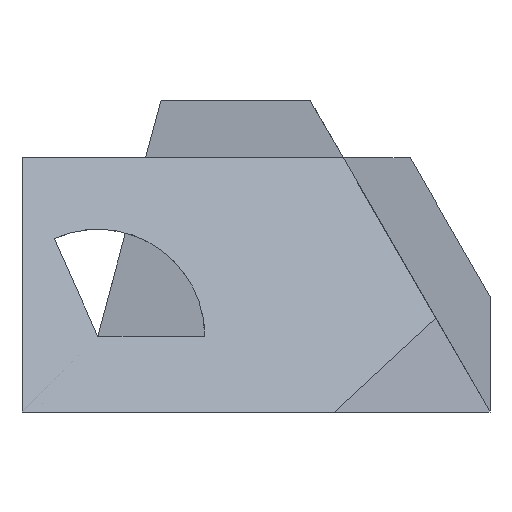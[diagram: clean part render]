
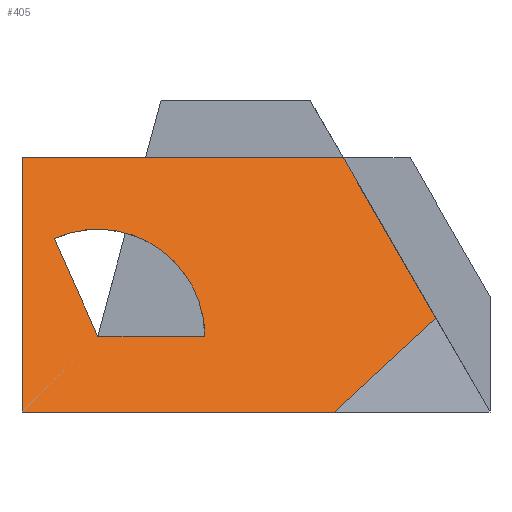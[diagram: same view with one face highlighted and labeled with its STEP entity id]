
A CAD part, front view. The second image highlights one B-rep face of the part: STEP entity #405.
In plain terms, the highlighted planar face has unit normal (0, -0.927, 0.375).
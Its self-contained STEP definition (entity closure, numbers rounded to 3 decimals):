
#15=FACE_BOUND('',#63,.T.);
#16=ELLIPSE('',#421,25.885,24.);
#40=FACE_OUTER_BOUND('',#62,.T.);
#62=EDGE_LOOP('',(#352,#353,#354,#355,#356));
#63=EDGE_LOOP('',(#357,#358,#359));
#90=LINE('',#593,#141);
#94=LINE('',#603,#145);
#103=LINE('',#623,#154);
#110=LINE('',#635,#161);
#111=LINE('',#638,#162);
#113=LINE('',#642,#164);
#115=LINE('',#645,#166);
#141=VECTOR('',#483,24.);
#145=VECTOR('',#495,25.583);
#154=VECTOR('',#512,44.016);
#161=VECTOR('',#523,72.091);
#162=VECTOR('',#526,32.198);
#164=VECTOR('',#530,70.);
#166=VECTOR('',#534,61.476);
#184=VERTEX_POINT('',#590);
#185=VERTEX_POINT('',#592);
#186=VERTEX_POINT('',#596);
#193=VERTEX_POINT('',#621);
#194=VERTEX_POINT('',#622);
#197=VERTEX_POINT('',#633);
#198=VERTEX_POINT('',#637);
#199=VERTEX_POINT('',#641);
#226=EDGE_CURVE('',#185,#184,#90,.T.);
#228=EDGE_CURVE('',#186,#185,#16,.T.);
#232=EDGE_CURVE('',#184,#186,#94,.T.);
#241=EDGE_CURVE('',#193,#194,#103,.T.);
#248=EDGE_CURVE('',#197,#194,#110,.T.);
#249=EDGE_CURVE('',#198,#193,#111,.T.);
#251=EDGE_CURVE('',#199,#198,#113,.T.);
#253=EDGE_CURVE('',#199,#197,#115,.T.);
#352=ORIENTED_EDGE('',*,*,#241,.T.);
#353=ORIENTED_EDGE('',*,*,#248,.F.);
#354=ORIENTED_EDGE('',*,*,#253,.F.);
#355=ORIENTED_EDGE('',*,*,#251,.T.);
#356=ORIENTED_EDGE('',*,*,#249,.T.);
#357=ORIENTED_EDGE('',*,*,#228,.T.);
#358=ORIENTED_EDGE('',*,*,#226,.T.);
#359=ORIENTED_EDGE('',*,*,#232,.T.);
#383=PLANE('',#432);
#405=ADVANCED_FACE('',(#40,#15),#383,.F.);
#421=AXIS2_PLACEMENT_3D('',#597,#487,#488);
#432=AXIS2_PLACEMENT_3D('',#644,#532,#533);
#483=DIRECTION('',(-1.,0.,0.));
#487=DIRECTION('center_axis',(0.,0.927,-0.375));
#488=DIRECTION('ref_axis',(0.,-0.375,-0.927));
#495=DIRECTION('',(-0.382,0.346,0.857));
#512=DIRECTION('',(-0.472,0.33,0.817));
#523=DIRECTION('',(1.,0.,0.));
#526=DIRECTION('',(0.71,0.264,0.653));
#530=DIRECTION('',(1.,0.,0.));
#532=DIRECTION('center_axis',(0.,0.927,-0.375));
#533=DIRECTION('ref_axis',(0.,-0.375,-0.927));
#534=DIRECTION('',(0.,0.375,0.927));
#590=CARTESIAN_POINT('',(-35.5,-15.632,17.));
#592=CARTESIAN_POINT('',(-11.5,-15.632,17.));
#593=CARTESIAN_POINT('',(20.5,-15.632,17.));
#596=CARTESIAN_POINT('',(-45.262,-6.773,38.925));
#597=CARTESIAN_POINT('Origin',(-35.5,-15.632,17.));
#603=CARTESIAN_POINT('',(-36.248,-14.953,18.68));
#621=CARTESIAN_POINT('',(40.364,-14.008,21.02));
#622=CARTESIAN_POINT('',(19.591,0.529,57.));
#623=CARTESIAN_POINT('',(39.71,-13.55,22.152));
#633=CARTESIAN_POINT('',(-52.5,0.529,57.));
#635=CARTESIAN_POINT('',(26.25,0.529,57.));
#637=CARTESIAN_POINT('',(17.5,-22.5,0.));
#638=CARTESIAN_POINT('',(51.735,-9.784,31.473));
#641=CARTESIAN_POINT('',(-52.5,-22.5,0.));
#642=CARTESIAN_POINT('',(-52.5,-22.5,0.));
#644=CARTESIAN_POINT('Origin',(52.5,0.529,57.));
#645=CARTESIAN_POINT('',(-52.5,-7.828,36.315));
